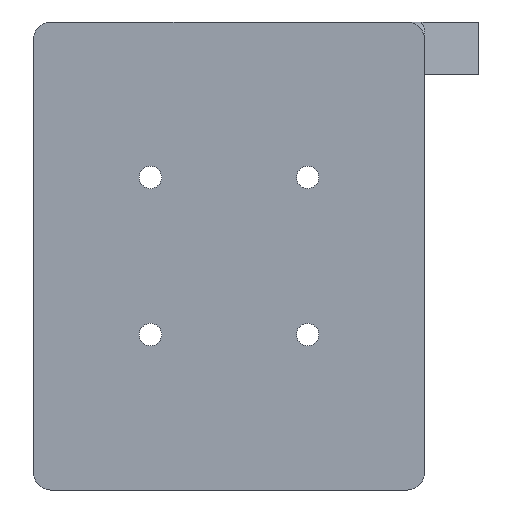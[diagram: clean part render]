
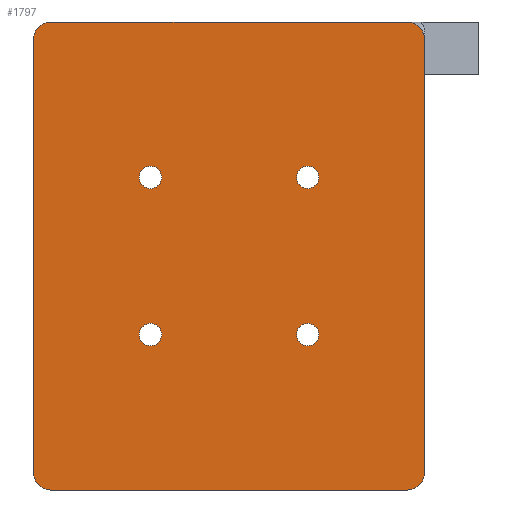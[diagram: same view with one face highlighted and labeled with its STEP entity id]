
A CAD part, front view. The second image highlights one B-rep face of the part: STEP entity #1797.
In plain terms, the highlighted planar face has unit normal (0, -1, 0).
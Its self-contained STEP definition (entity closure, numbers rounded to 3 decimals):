
#90=FACE_BOUND('',#353,.T.);
#91=FACE_BOUND('',#354,.T.);
#92=FACE_BOUND('',#355,.T.);
#93=FACE_BOUND('',#356,.T.);
#139=CIRCLE('',#1931,2.5);
#142=CIRCLE('',#1937,2.5);
#143=CIRCLE('',#1938,2.5);
#144=CIRCLE('',#1939,2.5);
#145=CIRCLE('',#1940,1.6);
#146=CIRCLE('',#1941,1.6);
#147=CIRCLE('',#1942,1.6);
#148=CIRCLE('',#1943,1.6);
#233=FACE_OUTER_BOUND('',#352,.T.);
#352=EDGE_LOOP('',(#1393,#1394,#1395,#1396,#1397,#1398,#1399,#1400));
#353=EDGE_LOOP('',(#1401));
#354=EDGE_LOOP('',(#1402));
#355=EDGE_LOOP('',(#1403));
#356=EDGE_LOOP('',(#1404));
#529=LINE('',#2991,#689);
#531=LINE('',#2995,#691);
#532=LINE('',#2999,#692);
#533=LINE('',#3003,#693);
#689=VECTOR('',#2290,10.);
#691=VECTOR('',#2294,10.);
#692=VECTOR('',#2297,10.);
#693=VECTOR('',#2300,10.);
#849=VERTEX_POINT('',#2941);
#850=VERTEX_POINT('',#2943);
#855=VERTEX_POINT('',#2990);
#856=VERTEX_POINT('',#2994);
#857=VERTEX_POINT('',#2996);
#858=VERTEX_POINT('',#2998);
#859=VERTEX_POINT('',#3000);
#860=VERTEX_POINT('',#3002);
#861=VERTEX_POINT('',#3005);
#862=VERTEX_POINT('',#3007);
#863=VERTEX_POINT('',#3009);
#864=VERTEX_POINT('',#3011);
#1047=EDGE_CURVE('',#849,#850,#139,.T.);
#1056=EDGE_CURVE('',#850,#855,#529,.T.);
#1058=EDGE_CURVE('',#856,#849,#531,.T.);
#1059=EDGE_CURVE('',#857,#856,#142,.T.);
#1060=EDGE_CURVE('',#858,#857,#532,.T.);
#1061=EDGE_CURVE('',#859,#858,#143,.T.);
#1062=EDGE_CURVE('',#860,#859,#533,.T.);
#1063=EDGE_CURVE('',#855,#860,#144,.T.);
#1064=EDGE_CURVE('',#861,#861,#145,.T.);
#1065=EDGE_CURVE('',#862,#862,#146,.T.);
#1066=EDGE_CURVE('',#863,#863,#147,.T.);
#1067=EDGE_CURVE('',#864,#864,#148,.T.);
#1393=ORIENTED_EDGE('',*,*,#1047,.F.);
#1394=ORIENTED_EDGE('',*,*,#1058,.F.);
#1395=ORIENTED_EDGE('',*,*,#1059,.F.);
#1396=ORIENTED_EDGE('',*,*,#1060,.F.);
#1397=ORIENTED_EDGE('',*,*,#1061,.F.);
#1398=ORIENTED_EDGE('',*,*,#1062,.F.);
#1399=ORIENTED_EDGE('',*,*,#1063,.F.);
#1400=ORIENTED_EDGE('',*,*,#1056,.F.);
#1401=ORIENTED_EDGE('',*,*,#1064,.F.);
#1402=ORIENTED_EDGE('',*,*,#1065,.F.);
#1403=ORIENTED_EDGE('',*,*,#1066,.F.);
#1404=ORIENTED_EDGE('',*,*,#1067,.F.);
#1724=PLANE('',#1936);
#1797=ADVANCED_FACE('',(#233,#90,#91,#92,#93),#1724,.F.);
#1931=AXIS2_PLACEMENT_3D('',#2944,#2276,#2277);
#1936=AXIS2_PLACEMENT_3D('',#2993,#2292,#2293);
#1937=AXIS2_PLACEMENT_3D('',#2997,#2295,#2296);
#1938=AXIS2_PLACEMENT_3D('',#3001,#2298,#2299);
#1939=AXIS2_PLACEMENT_3D('',#3004,#2301,#2302);
#1940=AXIS2_PLACEMENT_3D('',#3006,#2303,#2304);
#1941=AXIS2_PLACEMENT_3D('',#3008,#2305,#2306);
#1942=AXIS2_PLACEMENT_3D('',#3010,#2307,#2308);
#1943=AXIS2_PLACEMENT_3D('',#3012,#2309,#2310);
#2276=DIRECTION('center_axis',(0.,1.,0.));
#2277=DIRECTION('ref_axis',(0.707,0.,0.707));
#2290=DIRECTION('',(0.,0.,-1.));
#2292=DIRECTION('center_axis',(0.,1.,0.));
#2293=DIRECTION('ref_axis',(1.,0.,0.));
#2294=DIRECTION('',(1.,0.,0.));
#2295=DIRECTION('center_axis',(0.,1.,0.));
#2296=DIRECTION('ref_axis',(-0.707,0.,0.707));
#2297=DIRECTION('',(0.,0.,1.));
#2298=DIRECTION('center_axis',(0.,1.,0.));
#2299=DIRECTION('ref_axis',(-0.707,0.,-0.707));
#2300=DIRECTION('',(-1.,0.,0.));
#2301=DIRECTION('center_axis',(0.,1.,0.));
#2302=DIRECTION('ref_axis',(0.707,0.,-0.707));
#2303=DIRECTION('center_axis',(0.,-1.,0.));
#2304=DIRECTION('ref_axis',(1.,0.,0.));
#2305=DIRECTION('center_axis',(0.,-1.,0.));
#2306=DIRECTION('ref_axis',(1.,0.,0.));
#2307=DIRECTION('center_axis',(0.,-1.,0.));
#2308=DIRECTION('ref_axis',(1.,0.,0.));
#2309=DIRECTION('center_axis',(0.,-1.,0.));
#2310=DIRECTION('ref_axis',(1.,0.,0.));
#2941=CARTESIAN_POINT('',(25.5,0.,33.5));
#2943=CARTESIAN_POINT('',(28.,0.,31.));
#2944=CARTESIAN_POINT('Origin',(25.5,0.,31.));
#2990=CARTESIAN_POINT('',(28.,0.,-31.));
#2991=CARTESIAN_POINT('',(28.,0.,33.5));
#2993=CARTESIAN_POINT('Origin',(-22.5,0.,0.));
#2994=CARTESIAN_POINT('',(-25.5,0.,33.5));
#2995=CARTESIAN_POINT('',(-28.,0.,33.5));
#2996=CARTESIAN_POINT('',(-28.,0.,31.));
#2997=CARTESIAN_POINT('Origin',(-25.5,0.,31.));
#2998=CARTESIAN_POINT('',(-28.,0.,-31.));
#2999=CARTESIAN_POINT('',(-28.,0.,-33.5));
#3000=CARTESIAN_POINT('',(-25.5,0.,-33.5));
#3001=CARTESIAN_POINT('Origin',(-25.5,0.,-31.));
#3002=CARTESIAN_POINT('',(25.5,0.,-33.5));
#3003=CARTESIAN_POINT('',(28.,0.,-33.5));
#3004=CARTESIAN_POINT('Origin',(25.5,0.,-31.));
#3005=CARTESIAN_POINT('',(-12.85,0.,11.25));
#3006=CARTESIAN_POINT('Origin',(-11.25,0.,11.25));
#3007=CARTESIAN_POINT('',(9.65,0.,11.25));
#3008=CARTESIAN_POINT('Origin',(11.25,0.,11.25));
#3009=CARTESIAN_POINT('',(-12.85,0.,-11.25));
#3010=CARTESIAN_POINT('Origin',(-11.25,0.,-11.25));
#3011=CARTESIAN_POINT('',(9.65,0.,-11.25));
#3012=CARTESIAN_POINT('Origin',(11.25,0.,-11.25));
